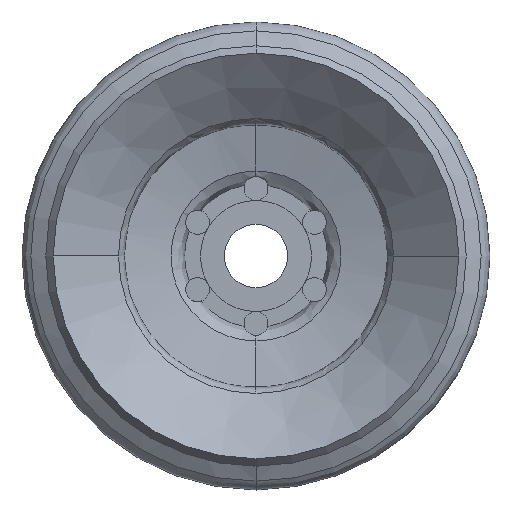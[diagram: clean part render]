
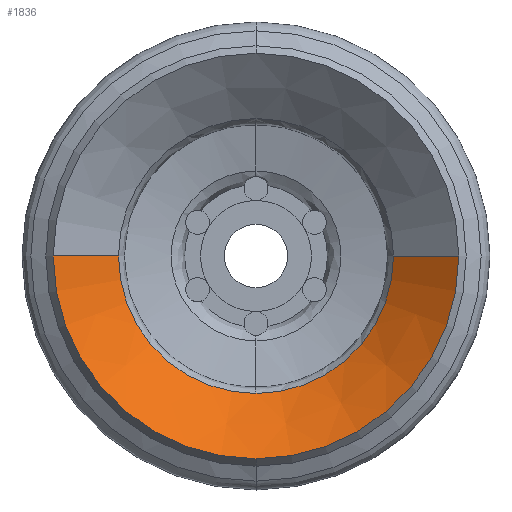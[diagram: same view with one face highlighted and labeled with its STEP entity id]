
A CAD part, front view. The second image highlights one B-rep face of the part: STEP entity #1836.
In plain terms, the highlighted conical face has half-angle 51.03 degrees and reference radius 17.335 mm.
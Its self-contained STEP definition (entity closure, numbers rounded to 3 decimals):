
#83 = VERTEX_POINT ( 'NONE', #1050 ) ;
#141 = CARTESIAN_POINT ( 'NONE',  ( 0., -27.349, -17.335 ) ) ;
#209 = ORIENTED_EDGE ( 'NONE', *, *, #1853, .F. ) ;
#229 = DIRECTION ( 'NONE',  ( 0., -1., 0. ) ) ;
#230 = CARTESIAN_POINT ( 'NONE',  ( -17.335, -27.349, 0. ) ) ;
#241 = ORIENTED_EDGE ( 'NONE', *, *, #1721, .F. ) ;
#244 = AXIS2_PLACEMENT_3D ( 'NONE', #1738, #1419, #1741 ) ;
#247 = ORIENTED_EDGE ( 'NONE', *, *, #828, .T. ) ;
#249 = CONICAL_SURFACE ( 'NONE', #1719, 17.335, 0.891 ) ;
#283 = DIRECTION ( 'NONE',  ( 0., -1., 0. ) ) ;
#310 = ORIENTED_EDGE ( 'NONE', *, *, #1716, .F. ) ;
#394 = VERTEX_POINT ( 'NONE', #1020 ) ;
#413 = CARTESIAN_POINT ( 'NONE',  ( 0., -27.349, 0. ) ) ;
#428 = VECTOR ( 'NONE', #1126, 1000. ) ;
#488 = DIRECTION ( 'NONE',  ( 0., 0., -1. ) ) ;
#591 = AXIS2_PLACEMENT_3D ( 'NONE', #1386, #1664, #787 ) ;
#627 = DIRECTION ( 'NONE',  ( 0., -1., 0. ) ) ;
#635 = CARTESIAN_POINT ( 'NONE',  ( 0., -34., 0. ) ) ;
#648 = DIRECTION ( 'NONE',  ( 0., 0., -1. ) ) ;
#721 = AXIS2_PLACEMENT_3D ( 'NONE', #413, #283, #488 ) ;
#773 = ORIENTED_EDGE ( 'NONE', *, *, #1780, .T. ) ;
#787 = DIRECTION ( 'NONE',  ( 0., 0., -1. ) ) ;
#828 = EDGE_CURVE ( 'NONE', #83, #1837, #1433, .T. ) ;
#892 = VERTEX_POINT ( 'NONE', #230 ) ;
#895 = CARTESIAN_POINT ( 'NONE',  ( 17.335, -27.349, 0. ) ) ;
#899 = AXIS2_PLACEMENT_3D ( 'NONE', #635, #627, #648 ) ;
#916 = VECTOR ( 'NONE', #928, 1000. ) ;
#928 = DIRECTION ( 'NONE',  ( 0.777, -0.629, 0. ) ) ;
#956 = EDGE_CURVE ( 'NONE', #394, #83, #1418, .T. ) ;
#958 = CARTESIAN_POINT ( 'NONE',  ( 25.557, -34., 0. ) ) ;
#1020 = CARTESIAN_POINT ( 'NONE',  ( -25.557, -34., 0. ) ) ;
#1050 = CARTESIAN_POINT ( 'NONE',  ( 0., -34., -25.557 ) ) ;
#1126 = DIRECTION ( 'NONE',  ( -0.777, -0.629, 0. ) ) ;
#1139 = CARTESIAN_POINT ( 'NONE',  ( -17.335, -27.349, 0. ) ) ;
#1169 = CARTESIAN_POINT ( 'NONE',  ( 17.335, -27.349, 0. ) ) ;
#1316 = CIRCLE ( 'NONE', #721, 17.335 ) ;
#1332 = EDGE_LOOP ( 'NONE', ( #209, #773, #1414, #247, #310, #241 ) ) ;
#1359 = VERTEX_POINT ( 'NONE', #1169 ) ;
#1367 = LINE ( 'NONE', #895, #916 ) ;
#1386 = CARTESIAN_POINT ( 'NONE',  ( 0., -27.349, 0. ) ) ;
#1414 = ORIENTED_EDGE ( 'NONE', *, *, #956, .T. ) ;
#1418 = CIRCLE ( 'NONE', #899, 25.557 ) ;
#1419 = DIRECTION ( 'NONE',  ( 0., -1., 0. ) ) ;
#1433 = CIRCLE ( 'NONE', #244, 25.557 ) ;
#1478 = FACE_OUTER_BOUND ( 'NONE', #1332, .T. ) ;
#1547 = VERTEX_POINT ( 'NONE', #141 ) ;
#1615 = LINE ( 'NONE', #1139, #428 ) ;
#1664 = DIRECTION ( 'NONE',  ( 0., -1., 0. ) ) ;
#1716 = EDGE_CURVE ( 'NONE', #1359, #1837, #1367, .T. ) ;
#1719 = AXIS2_PLACEMENT_3D ( 'NONE', #1849, #229, #1720 ) ;
#1720 = DIRECTION ( 'NONE',  ( 1., 0., 0. ) ) ;
#1721 = EDGE_CURVE ( 'NONE', #1547, #1359, #1316, .T. ) ;
#1738 = CARTESIAN_POINT ( 'NONE',  ( 0., -34., 0. ) ) ;
#1741 = DIRECTION ( 'NONE',  ( 0., 0., -1. ) ) ;
#1780 = EDGE_CURVE ( 'NONE', #892, #394, #1615, .T. ) ;
#1822 = CIRCLE ( 'NONE', #591, 17.335 ) ;
#1836 = ADVANCED_FACE ( 'NONE', ( #1478 ), #249, .F. ) ;
#1837 = VERTEX_POINT ( 'NONE', #958 ) ;
#1849 = CARTESIAN_POINT ( 'NONE',  ( 0., -27.349, 0. ) ) ;
#1853 = EDGE_CURVE ( 'NONE', #892, #1547, #1822, .T. ) ;
